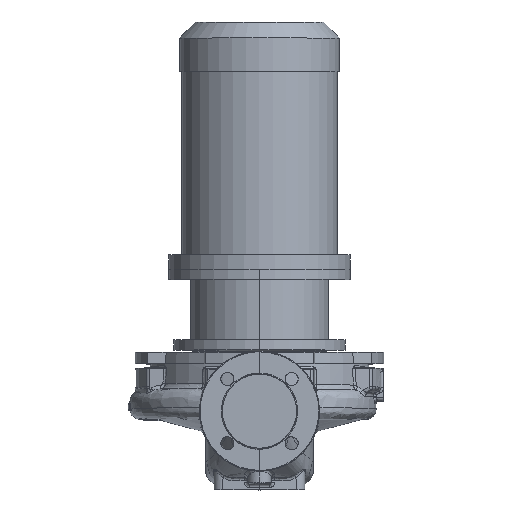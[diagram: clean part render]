
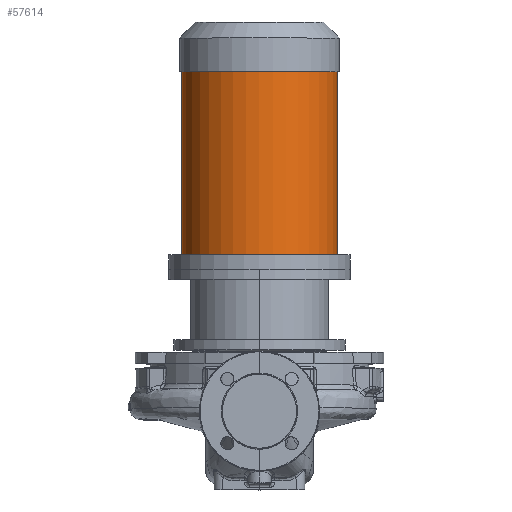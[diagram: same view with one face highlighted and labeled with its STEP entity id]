
A CAD part, top view. The second image highlights one B-rep face of the part: STEP entity #57614.
In plain terms, the highlighted cylindrical face has radius 107 mm (diameter 214 mm), a partial arc.
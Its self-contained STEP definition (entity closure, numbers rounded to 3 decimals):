
#2671 = VECTOR ( 'NONE', #22711, 1000. ) ;
#3787 = CARTESIAN_POINT ( 'NONE',  ( 0., 195.3, 0. ) ) ;
#7112 = ORIENTED_EDGE ( 'NONE', *, *, #31074, .T. ) ;
#7999 = CARTESIAN_POINT ( 'NONE',  ( 107., 195.3, 0. ) ) ;
#9864 = CIRCLE ( 'NONE', #11783, 107. ) ;
#10255 = CARTESIAN_POINT ( 'NONE',  ( -107., 195.3, 0. ) ) ;
#11115 = DIRECTION ( 'NONE',  ( -1., 0., 0. ) ) ;
#11783 = AXIS2_PLACEMENT_3D ( 'NONE', #31133, #37153, #18672 ) ;
#11927 = CIRCLE ( 'NONE', #53565, 107. ) ;
#12841 = CARTESIAN_POINT ( 'NONE',  ( 107., 467.3, 0. ) ) ;
#13286 = ORIENTED_EDGE ( 'NONE', *, *, #35036, .F. ) ;
#13818 = CARTESIAN_POINT ( 'NONE',  ( 107., 215.3, 0. ) ) ;
#14583 = DIRECTION ( 'NONE',  ( -1., 0., 0. ) ) ;
#18672 = DIRECTION ( 'NONE',  ( -1., 0., 0. ) ) ;
#19537 = VERTEX_POINT ( 'NONE', #12841 ) ;
#22711 = DIRECTION ( 'NONE',  ( 0., -1., 0. ) ) ;
#24432 = EDGE_CURVE ( 'NONE', #19537, #62274, #9864, .T. ) ;
#25479 = CYLINDRICAL_SURFACE ( 'NONE', #74885, 107. ) ;
#26234 = DIRECTION ( 'NONE',  ( 0., -1., 0. ) ) ;
#31074 = EDGE_CURVE ( 'NONE', #62274, #63691, #60284, .T. ) ;
#31133 = CARTESIAN_POINT ( 'NONE',  ( 0., 467.3, 0. ) ) ;
#34931 = DIRECTION ( 'NONE',  ( 0., -1., 0. ) ) ;
#35036 = EDGE_CURVE ( 'NONE', #19537, #68516, #36295, .T. ) ;
#36295 = LINE ( 'NONE', #7999, #44741 ) ;
#37153 = DIRECTION ( 'NONE',  ( 0., -1., 0. ) ) ;
#42324 = CARTESIAN_POINT ( 'NONE',  ( -107., 467.3, 0. ) ) ;
#44741 = VECTOR ( 'NONE', #49922, 1000. ) ;
#49922 = DIRECTION ( 'NONE',  ( 0., -1., 0. ) ) ;
#52296 = EDGE_LOOP ( 'NONE', ( #13286, #55427, #7112, #69361 ) ) ;
#53565 = AXIS2_PLACEMENT_3D ( 'NONE', #61859, #26234, #14583 ) ;
#54698 = FACE_OUTER_BOUND ( 'NONE', #52296, .T. ) ;
#55427 = ORIENTED_EDGE ( 'NONE', *, *, #24432, .T. ) ;
#57614 = ADVANCED_FACE ( 'NONE', ( #54698 ), #25479, .T. ) ;
#60284 = LINE ( 'NONE', #10255, #2671 ) ;
#61859 = CARTESIAN_POINT ( 'NONE',  ( 0., 215.3, 0. ) ) ;
#62274 = VERTEX_POINT ( 'NONE', #42324 ) ;
#63000 = EDGE_CURVE ( 'NONE', #68516, #63691, #11927, .T. ) ;
#63691 = VERTEX_POINT ( 'NONE', #76981 ) ;
#68516 = VERTEX_POINT ( 'NONE', #13818 ) ;
#69361 = ORIENTED_EDGE ( 'NONE', *, *, #63000, .F. ) ;
#74885 = AXIS2_PLACEMENT_3D ( 'NONE', #3787, #34931, #11115 ) ;
#76981 = CARTESIAN_POINT ( 'NONE',  ( -107., 215.3, 0. ) ) ;
